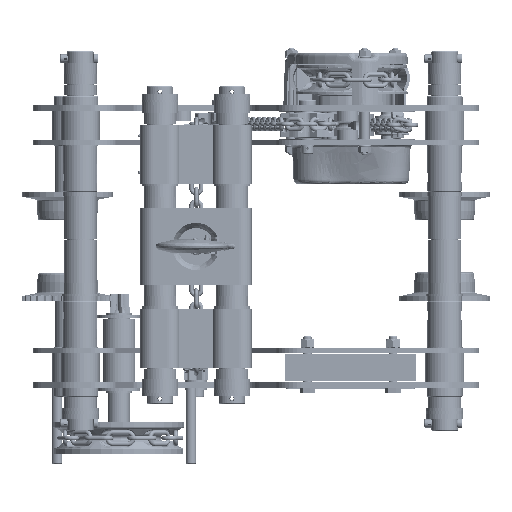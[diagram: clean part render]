
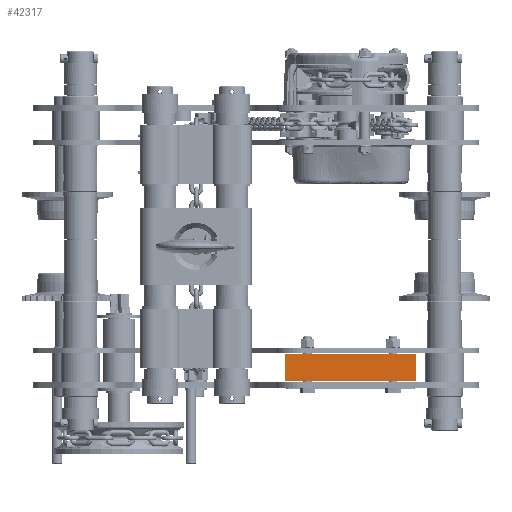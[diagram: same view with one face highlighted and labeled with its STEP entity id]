
A CAD part, front view. The second image highlights one B-rep face of the part: STEP entity #42317.
In plain terms, the highlighted planar face has unit normal (0, -1, 0).
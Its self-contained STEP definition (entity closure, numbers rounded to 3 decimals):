
#240 = DIRECTION ( 'NONE',  ( 0., 0., -1. ) ) ;
#42317 = ADVANCED_FACE ( 'NONE', ( #434969 ), #385933, .F. ) ;
#87065 = CARTESIAN_POINT ( 'NONE',  ( 0., 0., 31.75 ) ) ;
#98675 = CARTESIAN_POINT ( 'NONE',  ( 0., 0., 0. ) ) ;
#181482 = VERTEX_POINT ( 'NONE', #413893 ) ;
#209000 = LINE ( 'NONE', #87065, #332807 ) ;
#250457 = ORIENTED_EDGE ( 'NONE', *, *, #398788, .F. ) ;
#251948 = LINE ( 'NONE', #556606, #740482 ) ;
#283462 = LINE ( 'NONE', #665139, #566760 ) ;
#315347 = CARTESIAN_POINT ( 'NONE',  ( 152.4, 0., 31.75 ) ) ;
#332807 = VECTOR ( 'NONE', #753527, 1000. ) ;
#364989 = ORIENTED_EDGE ( 'NONE', *, *, #727502, .F. ) ;
#385933 = PLANE ( 'NONE',  #639538 ) ;
#398788 = EDGE_CURVE ( 'NONE', #561809, #405235, #510136, .T. ) ;
#405235 = VERTEX_POINT ( 'NONE', #506475 ) ;
#413323 = DIRECTION ( 'NONE',  ( 1., 0., 0. ) ) ;
#413893 = CARTESIAN_POINT ( 'NONE',  ( 0., 0., 31.75 ) ) ;
#434969 = FACE_OUTER_BOUND ( 'NONE', #796347, .T. ) ;
#459693 = EDGE_CURVE ( 'NONE', #181482, #533851, #251948, .T. ) ;
#470544 = EDGE_CURVE ( 'NONE', #533851, #405235, #283462, .T. ) ;
#494145 = DIRECTION ( 'NONE',  ( 0., 0., -1. ) ) ;
#499867 = CARTESIAN_POINT ( 'NONE',  ( 0., 0., 31.75 ) ) ;
#506475 = CARTESIAN_POINT ( 'NONE',  ( 152.4, 0., 0. ) ) ;
#510136 = LINE ( 'NONE', #315347, #651064 ) ;
#533851 = VERTEX_POINT ( 'NONE', #98675 ) ;
#554654 = ORIENTED_EDGE ( 'NONE', *, *, #470544, .T. ) ;
#556606 = CARTESIAN_POINT ( 'NONE',  ( 0., 0., 31.75 ) ) ;
#561809 = VERTEX_POINT ( 'NONE', #774029 ) ;
#566760 = VECTOR ( 'NONE', #413323, 1000. ) ;
#639538 = AXIS2_PLACEMENT_3D ( 'NONE', #499867, #694672, #755743 ) ;
#651064 = VECTOR ( 'NONE', #494145, 1000. ) ;
#665139 = CARTESIAN_POINT ( 'NONE',  ( 0., 0., 0. ) ) ;
#694672 = DIRECTION ( 'NONE',  ( 0., 1., 0. ) ) ;
#727502 = EDGE_CURVE ( 'NONE', #181482, #561809, #209000, .T. ) ;
#732753 = ORIENTED_EDGE ( 'NONE', *, *, #459693, .T. ) ;
#740482 = VECTOR ( 'NONE', #240, 1000. ) ;
#753527 = DIRECTION ( 'NONE',  ( 1., 0., 0. ) ) ;
#755743 = DIRECTION ( 'NONE',  ( -1., 0., 0. ) ) ;
#774029 = CARTESIAN_POINT ( 'NONE',  ( 152.4, 0., 31.75 ) ) ;
#796347 = EDGE_LOOP ( 'NONE', ( #554654, #250457, #364989, #732753 ) ) ;
